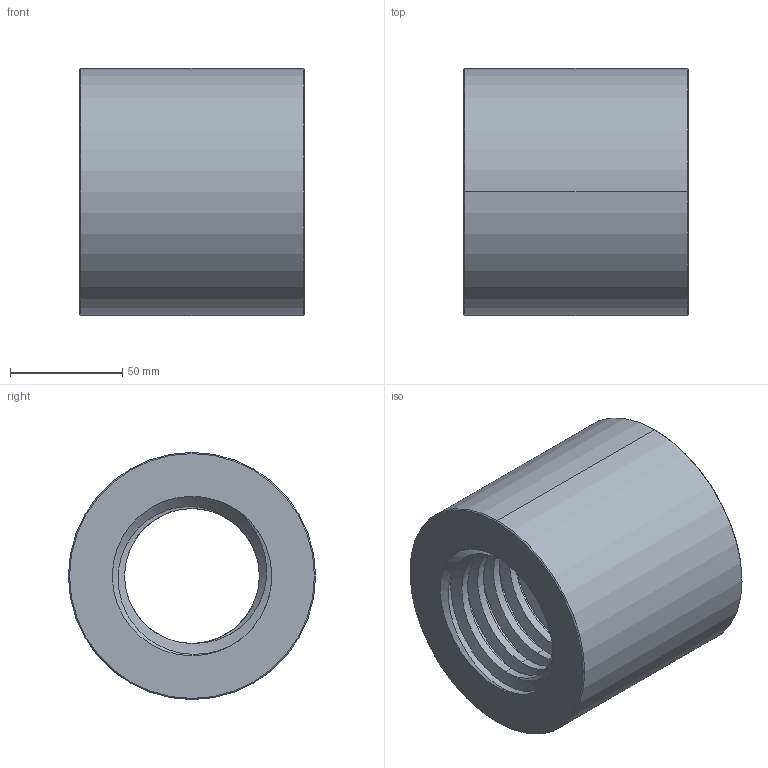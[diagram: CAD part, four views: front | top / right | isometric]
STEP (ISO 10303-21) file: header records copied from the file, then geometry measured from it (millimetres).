
FILE_DESCRIPTION((''),'2;1');
FILE_NAME('711-070-1100_PRT','2024-03-23T',('Brieden'),('ib-brieden'),'PRO/ENGINEER BY PARAMETRIC TECHNOLOGY CORPORATION, 2010160','PRO/ENGINEER BY PARAMETRIC TECHNOLOGY CORPORATION, 2010160','');
FILE_SCHEMA(('AUTOMOTIVE_DESIGN { 1 0 10303 214 1 1 1 1 }'));
Length unit declared in the file: millimetre
Products named in the file (1): 711-070-1100_PRT
Bounding box: 100 x 110 x 110 mm (x, y, z)
Volume: 610102.6 mm3; surface area: 83011 mm2
Topology: 1 solids, 1 shells, 39 faces, 99 edges, 62 vertices
Faces by surface type: cylinder 20, bspline 9, cone 8, plane 2
Entity records: 6607 total; most frequent: CARTESIAN_POINT 5728, ORIENTED_EDGE 198, DIRECTION 119, EDGE_CURVE 99, VERTEX_POINT 62, B_SPLINE_CURVE_WITH_KNOTS 54, AXIS2_PLACEMENT_3D 44, EDGE_LOOP 41
